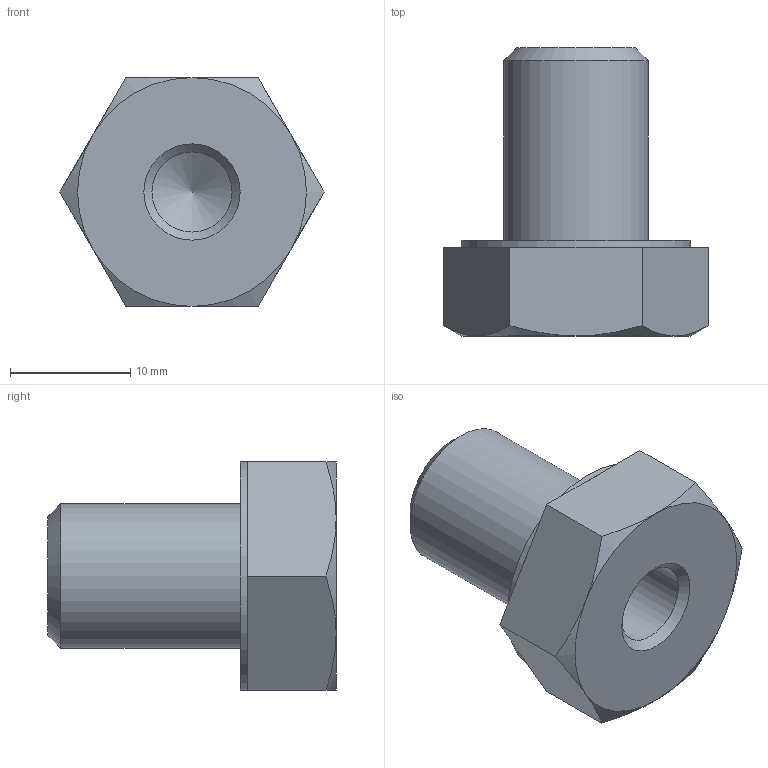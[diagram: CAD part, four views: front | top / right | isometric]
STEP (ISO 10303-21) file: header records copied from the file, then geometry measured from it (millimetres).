
FILE_DESCRIPTION(/* description */ ('STEP AP203'),/* implementation_level */ '2;1');
FILE_NAME(/* name */ 'E30536',/* time_stamp */ '2024-12-13T10:15:17+01:00',/* author */ ('License CC BY-ND 4.0'),/* organization */ ('CADENAS'),/* preprocessor_version */ 'ST-DEVELOPER v19.3',/* originating_system */ 'PARTsolutions',/* authorisation */ ' ');
FILE_SCHEMA (('CONFIG_CONTROL_DESIGN'));
Length unit declared in the file: millimetre
Products named in the file (1): E30536
Bounding box: 21.94 x 23.95 x 19 mm (x, y, z)
Volume: 3735.6 mm3; surface area: 1998.6 mm2
Topology: 1 solids, 1 shells, 27 faces, 56 edges, 32 vertices
Faces by surface type: plane 15, cone 9, cylinder 3
Full cylindrical faces by diameter (mm): 6.647 x1, 12 x1, 19 x1
Entity records: 708 total; most frequent: CARTESIAN_POINT 145, DIRECTION 112, ORIENTED_EDGE 98, EDGE_CURVE 49, AXIS2_PLACEMENT_3D 47, FACE_BOUND 35, EDGE_LOOP 34, VERTEX_POINT 32
